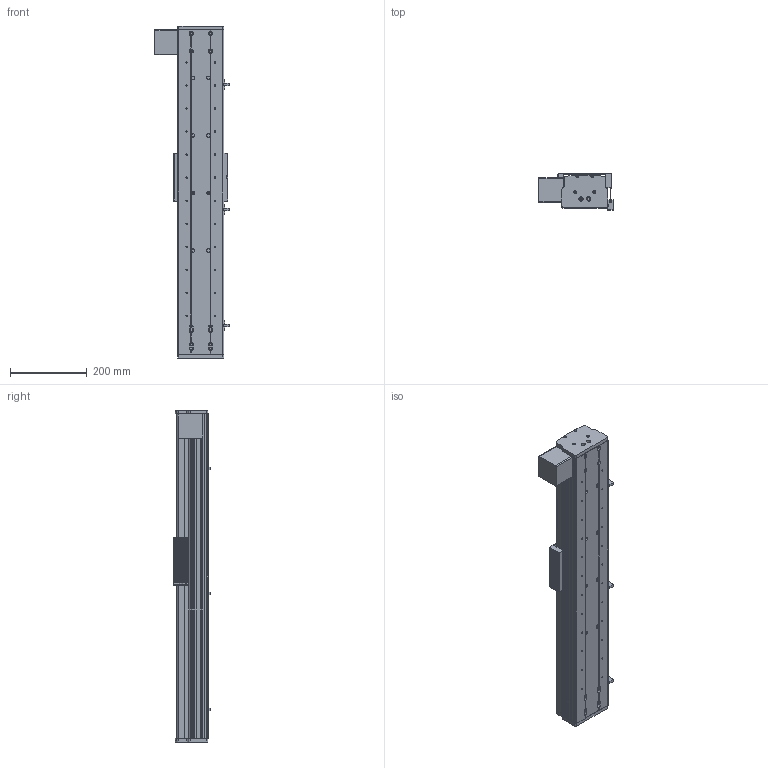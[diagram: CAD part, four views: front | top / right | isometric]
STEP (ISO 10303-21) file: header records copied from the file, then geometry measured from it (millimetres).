
FILE_DESCRIPTION (( 'STEP AP214' ), '1' );
FILE_NAME ('CF120B-D-550-FWL.STEP', '2020-01-15T07:25:59', ( '微软用户' ), ( '微软中国' ), 'SwSTEP 2.0', 'SolidWorks 2016', '' );
FILE_SCHEMA (( 'AUTOMOTIVE_DESIGN' ));
Length unit declared in the file: millimetre
Products named in the file (14): CF120B裔啣-550; CF120B賑雄啣; CF120-B賑雄輸; EGR15絳寢-550; EGH-15-CABZnew; CF120B臏倰第-550; CF120B-D-550-FWL; 嫖萇羲壽; 75-86-95癹弇羲壽覜茼え; 6060-3232源臏奪-植雄釱; 6060-3232源臏奪-萇儂釱; 6060-3232源臏奪-翋雄釱; CF120B耜啣萇儂傷; CF120B耜啣
Assembly tree (19 placements, depth 2):
  CF120B-D-550-FWL
    CF120B臏倰第-550
    EGH-15-CABZnew  x4
    EGR15絳寢-550  x2
    CF120-B賑雄輸
    CF120B賑雄啣
    CF120B裔啣-550
    CF120B耜啣
    CF120B耜啣萇儂傷
    6060-3232源臏奪-翋雄釱
    6060-3232源臏奪-萇儂釱
    6060-3232源臏奪-植雄釱
    75-86-95癹弇羲壽覜茼え
    嫖萇羲壽  x3
Bounding box: 193.1 x 93.85 x 865 mm (x, y, z)
Volume: 3871293.1 mm3; surface area: 1326631.5 mm2
Topology: 15 solids, 67 shells, 7335 faces, 27786 edges, 19124 vertices
Faces by surface type: plane 3612, bspline 2348, cylinder 1023, cone 128, torus 128, sphere 96
Entity records: 132428 total; most frequent: CARTESIAN_POINT 42263, ORIENTED_EDGE 15684, DIRECTION 12463, EDGE_CURVE 8966, VERTEX_POINT 6135, LINE 5277, VECTOR 5277, AXIS2_PLACEMENT_3D 3593
